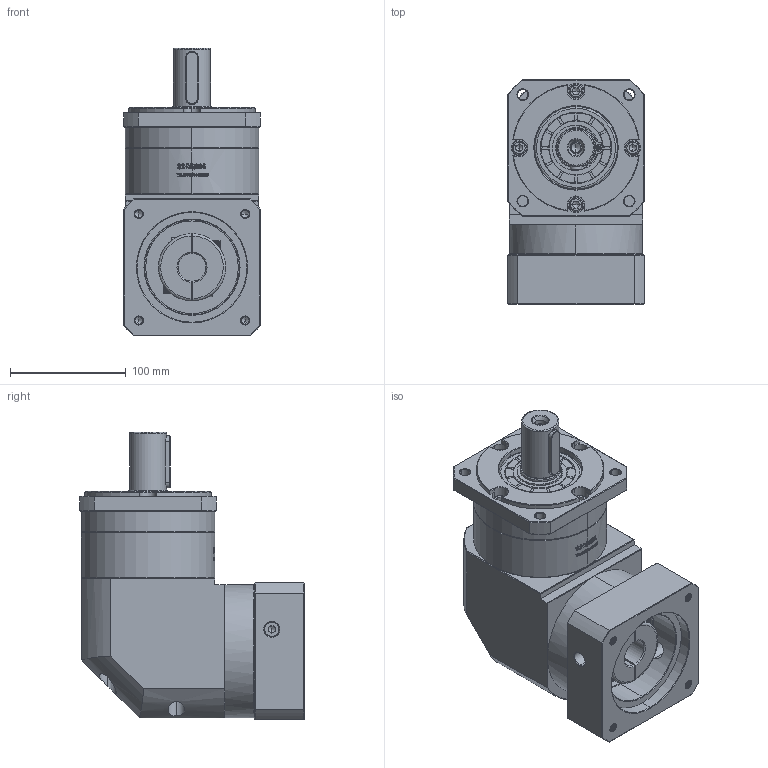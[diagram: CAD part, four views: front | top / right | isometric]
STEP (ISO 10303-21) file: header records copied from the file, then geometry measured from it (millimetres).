
FILE_DESCRIPTION (( 'STEP AP214' ), '1' );
FILE_NAME ('ZFR120A-D32-L1-24-95-130-M8.step', '2023-03-08T08:24:59', ( '' ), ( '' ), 'SwSTEP 2.0', 'SolidWorks 2016', '' );
FILE_SCHEMA (( 'AUTOMOTIVE_DESIGN' ));
Length unit declared in the file: millimetre
Products named in the file (1): ZFR120A-D32-L1-24-95-130-M8
Bounding box: 118 x 193.9 x 248 mm (x, y, z)
Volume: 2909947.5 mm3; surface area: 244904.7 mm2
Topology: 6 solids, 6 shells, 2870 faces, 7678 edges, 4953 vertices
Faces by surface type: plane 1484, bspline 606, cylinder 434, cone 338, torus 8
Entity records: 158147 total; most frequent: CARTESIAN_POINT 60750, ORIENTED_EDGE 15296, DIRECTION 11128, EDGE_CURVE 7648, VERTEX_POINT 4953, VECTOR 4750, LINE 4750, AXIS2_PLACEMENT_3D 3189
